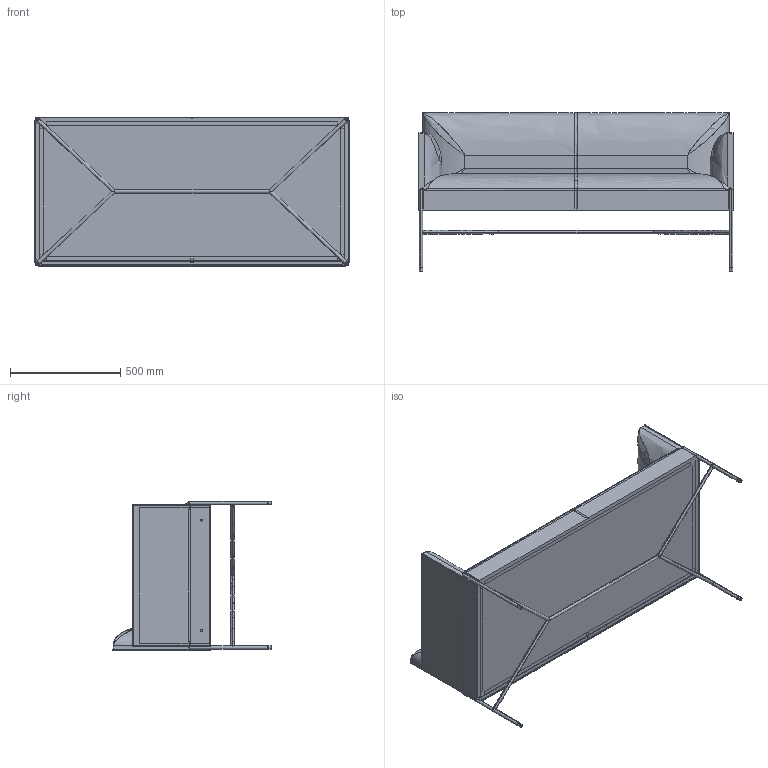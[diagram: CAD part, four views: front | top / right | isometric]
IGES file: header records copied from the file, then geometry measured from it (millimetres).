
Start section: SolidWorks IGES file using analytic representation for surfaces
Global section: file name: W:\design\GORDON GUILLAUMIER\Chill-Out\modelli 3d aggiornati\divano L.IGS; native system: SolidWorks 2010; preprocessor: SolidWorks 2010; author: PC20; date: 140714.191342; units: millimetre
Bounding box: 1430 x 719.5 x 675.5 mm (x, y, z)
Surface area: 10776441.9 mm2 (no closed solid volume)
Topology: 0 solids, 0 shells, 748 faces, 18598 edges, 21916 vertices
Faces by surface type: bspline 434, revolution 314
